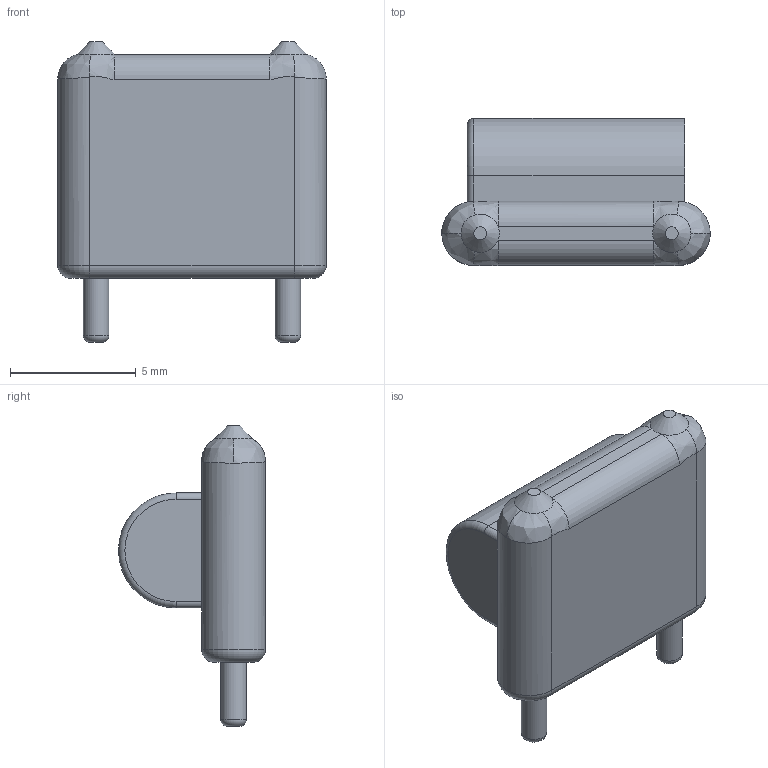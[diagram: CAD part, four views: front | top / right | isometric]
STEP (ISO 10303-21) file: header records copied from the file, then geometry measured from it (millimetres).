
FILE_DESCRIPTION(('FreeCAD Model'),'2;1');
FILE_NAME('Schematics/CV.3dshapes/Epoxy_Coated_Inductor.stp','2020-09-24T00:14:18',('Author'),(''), 'Open CASCADE STEP processor 7.3','FreeCAD','Unknown');
FILE_SCHEMA(('AUTOMOTIVE_DESIGN { 1 0 10303 214 1 1 1 1 }'));
Length unit declared in the file: millimetre
Products named in the file (4): Epoxy_Coated_Inductor; Epoxy_Coating; Pins; Array002
Assembly tree (3 placements, depth 2):
  Epoxy_Coated_Inductor
    Epoxy_Coating
    Pins
    Array002
Bounding box: 10.67 x 5.84 x 11.94 mm (x, y, z)
Volume: 340.7 mm3; surface area: 350.1 mm2
Topology: 4 solids, 4 shells, 47 faces, 92 edges, 53 vertices
Faces by surface type: plane 19, cylinder 12, bspline 8, torus 6, cone 2
Full cylindrical faces by diameter (mm): 1.016 x3
Entity records: 3447 total; most frequent: CARTESIAN_POINT 1520, DIRECTION 344, ORIENTED_EDGE 184, PCURVE 184, DEFINITIONAL_REPRESENTATION 184, LINE 179, VECTOR 179, EDGE_CURVE 92
